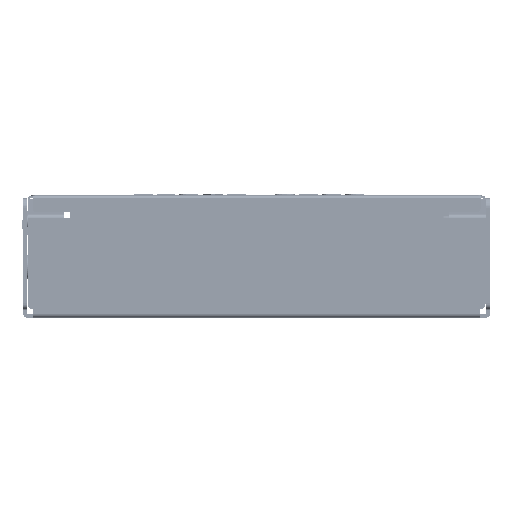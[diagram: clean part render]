
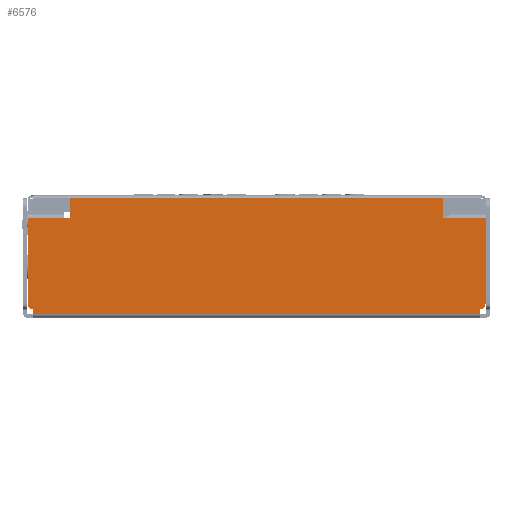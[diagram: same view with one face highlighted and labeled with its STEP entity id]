
A CAD part, left-side view. The second image highlights one B-rep face of the part: STEP entity #6576.
In plain terms, the highlighted planar face has unit normal (-1, 0, 0).
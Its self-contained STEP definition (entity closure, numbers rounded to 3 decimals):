
#1705=DIRECTION('',(0.,0.,-1.));
#1706=VECTOR('',#1705,1.);
#1707=CARTESIAN_POINT('',(0.,64.611,1.));
#1708=LINE('',#1707,#1706);
#1763=DIRECTION('',(0.,0.,1.));
#1764=VECTOR('',#1763,5.);
#1765=CARTESIAN_POINT('',(0.,55.511,23.5));
#1766=LINE('',#1765,#1764);
#1767=DIRECTION('',(0.,-1.,0.));
#1768=VECTOR('',#1767,91.8);
#1769=CARTESIAN_POINT('',(0.,55.511,28.5));
#1770=LINE('',#1769,#1768);
#1771=DIRECTION('',(0.,-1.,0.));
#1772=VECTOR('',#1771,1.5);
#1773=CARTESIAN_POINT('',(0.,-36.289,23.5));
#1774=LINE('',#1773,#1772);
#1775=DIRECTION('',(0.,0.,-1.));
#1776=VECTOR('',#1775,21.003);
#1777=CARTESIAN_POINT('',(0.,-46.789,23.5));
#1778=LINE('',#1777,#1776);
#1779=CARTESIAN_POINT('',(0.,-45.289,2.497));
#1780=DIRECTION('',(1.,0.,0.));
#1781=DIRECTION('',(0.,-1.,0.));
#1782=AXIS2_PLACEMENT_3D('',#1779,#1780,#1781);
#1784=DIRECTION('',(0.,0.,-1.));
#1785=VECTOR('',#1784,1.);
#1786=CARTESIAN_POINT('',(0.,-45.389,1.));
#1787=LINE('',#1786,#1785);
#1788=CARTESIAN_POINT('',(0.,64.511,2.497));
#1789=DIRECTION('',(1.,0.,0.));
#1790=DIRECTION('',(0.,0.067,-0.998));
#1791=AXIS2_PLACEMENT_3D('',#1788,#1789,#1790);
#1793=DIRECTION('',(0.,0.,1.));
#1794=VECTOR('',#1793,21.003);
#1795=CARTESIAN_POINT('',(0.,66.011,2.497));
#1796=LINE('',#1795,#1794);
#1797=DIRECTION('',(0.,1.,0.));
#1798=VECTOR('',#1797,1.5);
#1799=CARTESIAN_POINT('',(0.,55.511,23.5));
#1800=LINE('',#1799,#1798);
#1814=DIRECTION('',(0.,1.,0.));
#1815=VECTOR('',#1814,9.);
#1816=CARTESIAN_POINT('',(0.,57.011,23.5));
#1817=LINE('',#1816,#1815);
#1965=DIRECTION('',(0.,0.,1.));
#1966=VECTOR('',#1965,5.);
#1967=CARTESIAN_POINT('',(0.,-36.289,23.5));
#1968=LINE('',#1967,#1966);
#2125=DIRECTION('',(0.,1.,0.));
#2126=VECTOR('',#2125,9.);
#2127=CARTESIAN_POINT('',(0.,-46.789,23.5));
#2128=LINE('',#2127,#2126);
#2133=DIRECTION('',(0.,-1.,0.));
#2134=VECTOR('',#2133,110.);
#2135=CARTESIAN_POINT('',(0.,64.611,0.));
#2136=LINE('',#2135,#2134);
#3977=CARTESIAN_POINT('',(0.,64.611,0.));
#3978=VERTEX_POINT('',#3977);
#3979=CARTESIAN_POINT('',(0.,64.611,1.));
#3981=VERTEX_POINT('',#3979);
#3985=CARTESIAN_POINT('',(0.,66.011,2.497));
#3986=VERTEX_POINT('',#3985);
#4007=CARTESIAN_POINT('',(0.,-45.389,1.));
#4008=VERTEX_POINT('',#4007);
#4009=CARTESIAN_POINT('',(0.,-45.389,0.));
#4010=VERTEX_POINT('',#4009);
#4011=CARTESIAN_POINT('',(0.,-46.789,2.497));
#4012=VERTEX_POINT('',#4011);
#4013=CARTESIAN_POINT('',(0.,55.511,23.5));
#4014=CARTESIAN_POINT('',(0.,57.011,23.5));
#4015=VERTEX_POINT('',#4013);
#4016=VERTEX_POINT('',#4014);
#4017=CARTESIAN_POINT('',(0.,55.511,28.5));
#4018=VERTEX_POINT('',#4017);
#4019=CARTESIAN_POINT('',(0.,-36.289,28.5));
#4020=VERTEX_POINT('',#4019);
#4021=CARTESIAN_POINT('',(0.,-36.289,23.5));
#4022=VERTEX_POINT('',#4021);
#4023=CARTESIAN_POINT('',(0.,-37.789,23.5));
#4024=VERTEX_POINT('',#4023);
#4025=CARTESIAN_POINT('',(0.,-46.789,23.5));
#4026=VERTEX_POINT('',#4025);
#4027=CARTESIAN_POINT('',(0.,66.011,23.5));
#4028=VERTEX_POINT('',#4027);
#6545=CARTESIAN_POINT('',(0.,-46.889,-1.));
#6546=DIRECTION('',(-1.,0.,0.));
#6547=DIRECTION('',(0.,-1.,0.));
#6548=AXIS2_PLACEMENT_3D('',#6545,#6546,#6547);
#6549=PLANE('',#6548);
#6551=ORIENTED_EDGE('',*,*,#6550,.F.);
#6553=ORIENTED_EDGE('',*,*,#6552,.T.);
#6555=ORIENTED_EDGE('',*,*,#6554,.T.);
#6557=ORIENTED_EDGE('',*,*,#6556,.F.);
#6559=ORIENTED_EDGE('',*,*,#6558,.T.);
#6561=ORIENTED_EDGE('',*,*,#6560,.F.);
#6563=ORIENTED_EDGE('',*,*,#6562,.T.);
#6564=ORIENTED_EDGE('',*,*,#6538,.T.);
#6565=ORIENTED_EDGE('',*,*,#6526,.T.);
#6567=ORIENTED_EDGE('',*,*,#6566,.F.);
#6568=ORIENTED_EDGE('',*,*,#6460,.F.);
#6569=ORIENTED_EDGE('',*,*,#6477,.T.);
#6571=ORIENTED_EDGE('',*,*,#6570,.T.);
#6573=ORIENTED_EDGE('',*,*,#6572,.F.);
#6574=EDGE_LOOP('',(#6551,#6553,#6555,#6557,#6559,#6561,#6563,#6564,#6565,#6567,
#6568,#6569,#6571,#6573));
#6575=FACE_OUTER_BOUND('',#6574,.F.);
#6576=ADVANCED_FACE('',(#6575),#6549,.T.);
#1783=CIRCLE('',#1782,1.5);
#1792=CIRCLE('',#1791,1.5);
#6460=EDGE_CURVE('',#3981,#3978,#1708,.T.);
#6477=EDGE_CURVE('',#3981,#3986,#1792,.T.);
#6526=EDGE_CURVE('',#4008,#4010,#1787,.T.);
#6538=EDGE_CURVE('',#4012,#4008,#1783,.T.);
#6550=EDGE_CURVE('',#4015,#4016,#1800,.T.);
#6552=EDGE_CURVE('',#4015,#4018,#1766,.T.);
#6554=EDGE_CURVE('',#4018,#4020,#1770,.T.);
#6556=EDGE_CURVE('',#4022,#4020,#1968,.T.);
#6558=EDGE_CURVE('',#4022,#4024,#1774,.T.);
#6560=EDGE_CURVE('',#4026,#4024,#2128,.T.);
#6562=EDGE_CURVE('',#4026,#4012,#1778,.T.);
#6566=EDGE_CURVE('',#3978,#4010,#2136,.T.);
#6570=EDGE_CURVE('',#3986,#4028,#1796,.T.);
#6572=EDGE_CURVE('',#4016,#4028,#1817,.T.);
